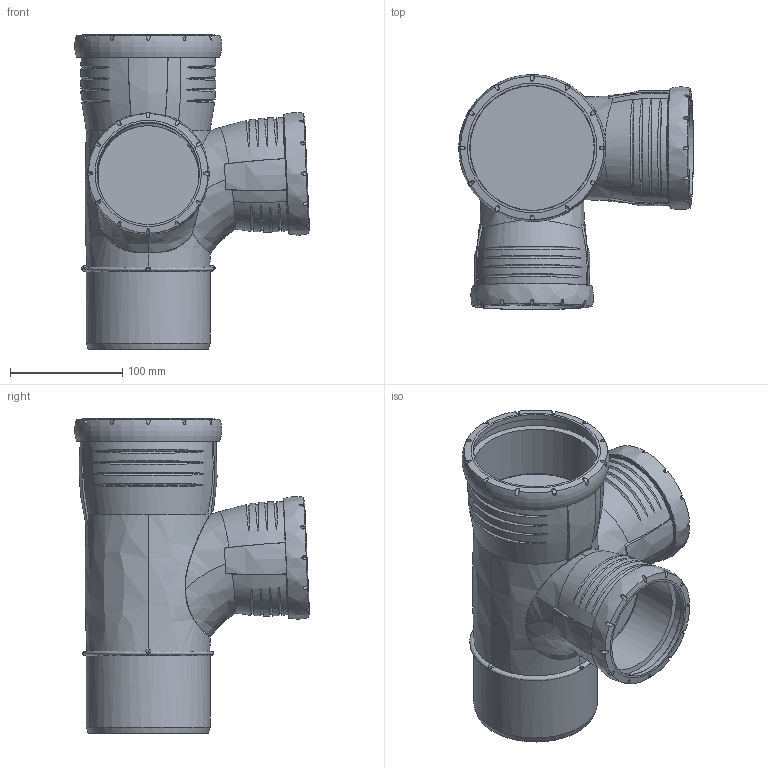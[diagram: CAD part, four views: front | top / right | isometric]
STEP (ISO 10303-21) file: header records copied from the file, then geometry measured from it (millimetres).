
FILE_DESCRIPTION(/* description */ (''),/* implementation_level */ '2;1');
FILE_NAME(/* name */ 'H:\Geberit-Teile\Export\393.550.14.1\stp\393550.stp',/* time_stamp */ '2018-05-28T16:25:47+02:00',/* author */ ('seihe2'),/* organization */ (''),/* preprocessor_version */ 'ST-DEVELOPER v15.2',/* originating_system */ 'Autodesk Inventor 2014',/* authorisation */ '');
FILE_SCHEMA (('AUTOMOTIVE_DESIGN { 1 0 10303 214 3 1 1 }'));
Length unit declared in the file: millimetre
Products named in the file (1): 393550
Bounding box: 208.89 x 208.89 x 279.9 mm (x, y, z)
Volume: 150966.8 mm3; surface area: 372478.6 mm2
Topology: 1 solids, 2 shells, 489 faces, 1375 edges, 887 vertices
Faces by surface type: bspline 271, cone 97, plane 64, torus 27, cylinder 26, sphere 4
Full cylindrical faces by diameter (mm): 90.632 x1, 90.9 x2, 91.2 x2, 100.2 x2, 101.2 x1, 110.2 x1, 111 x1, 111.3 x1, 121.5 x1
Entity records: 29750 total; most frequent: CARTESIAN_POINT 18766, ORIENTED_EDGE 2624, DIRECTION 1654, EDGE_CURVE 1312, VERTEX_POINT 872, AXIS2_PLACEMENT_3D 750, B_SPLINE_CURVE_WITH_KNOTS 602, EDGE_LOOP 536
